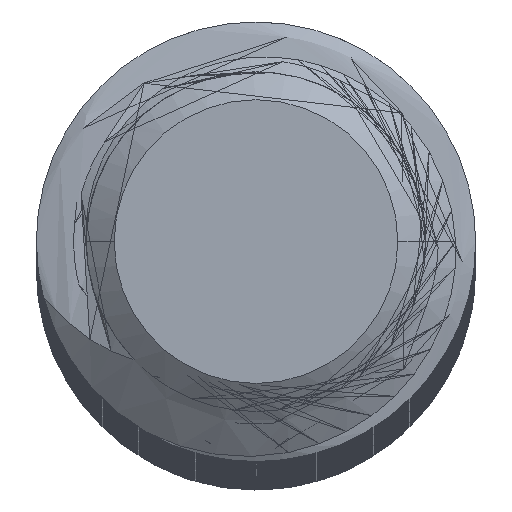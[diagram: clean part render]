
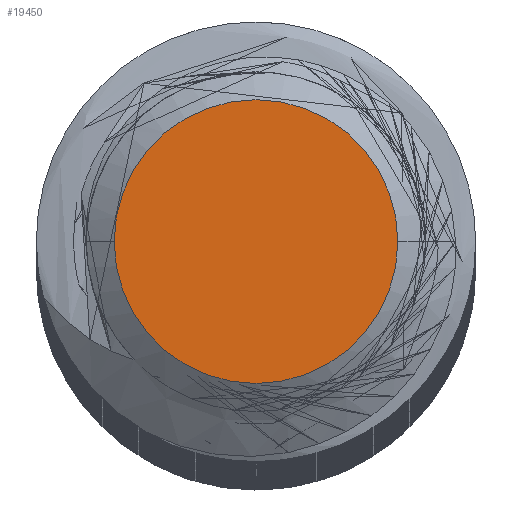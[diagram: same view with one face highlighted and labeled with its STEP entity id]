
A CAD part, top view. The second image highlights one B-rep face of the part: STEP entity #19450.
In plain terms, the highlighted planar face has unit normal (0, 0, 1).
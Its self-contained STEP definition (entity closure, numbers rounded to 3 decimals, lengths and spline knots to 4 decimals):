
#3103 = PLANE ( 'NONE',  #22673 ) ;
#6377 = CARTESIAN_POINT ( 'NONE',  ( 1.2913, 0., 0. ) ) ;
#6896 = CIRCLE ( 'NONE', #9686, 1.2913 ) ;
#9686 = AXIS2_PLACEMENT_3D ( 'NONE', #24558, #36159, #17221 ) ;
#13064 = DIRECTION ( 'NONE',  ( 1., 0., 0. ) ) ;
#14910 = CARTESIAN_POINT ( 'NONE',  ( 0., 0., 0. ) ) ;
#17221 = DIRECTION ( 'NONE',  ( 1., 0., 0. ) ) ;
#19450 = ADVANCED_FACE ( 'NONE', ( #30269 ), #3103, .T. ) ;
#20984 = EDGE_CURVE ( 'NONE', #26203, #37402, #39615, .T. ) ;
#21863 = EDGE_CURVE ( 'NONE', #37402, #26203, #6896, .T. ) ;
#22673 = AXIS2_PLACEMENT_3D ( 'NONE', #14910, #41470, #45264 ) ;
#23689 = AXIS2_PLACEMENT_3D ( 'NONE', #35824, #43767, #13064 ) ;
#24558 = CARTESIAN_POINT ( 'NONE',  ( 0., 0., 0. ) ) ;
#26203 = VERTEX_POINT ( 'NONE', #6377 ) ;
#30269 = FACE_OUTER_BOUND ( 'NONE', #32361, .T. ) ;
#32361 = EDGE_LOOP ( 'NONE', ( #32493, #33697 ) ) ;
#32493 = ORIENTED_EDGE ( 'NONE', *, *, #21863, .T. ) ;
#33697 = ORIENTED_EDGE ( 'NONE', *, *, #20984, .T. ) ;
#35824 = CARTESIAN_POINT ( 'NONE',  ( 0., 0., 0. ) ) ;
#36159 = DIRECTION ( 'NONE',  ( 0., 0., 1. ) ) ;
#37402 = VERTEX_POINT ( 'NONE', #40225 ) ;
#39615 = CIRCLE ( 'NONE', #23689, 1.2913 ) ;
#40225 = CARTESIAN_POINT ( 'NONE',  ( -1.2913, 0., 0. ) ) ;
#41470 = DIRECTION ( 'NONE',  ( 0., 0., 1. ) ) ;
#43767 = DIRECTION ( 'NONE',  ( 0., 0., 1. ) ) ;
#45264 = DIRECTION ( 'NONE',  ( 1., 0., 0. ) ) ;
